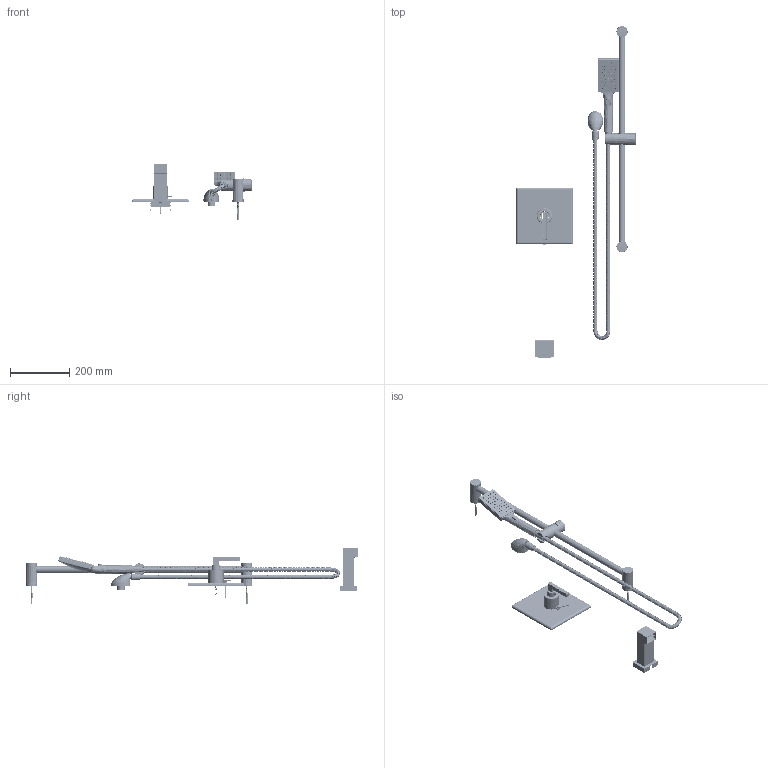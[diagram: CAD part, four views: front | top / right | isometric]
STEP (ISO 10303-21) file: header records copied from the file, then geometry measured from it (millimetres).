
FILE_DESCRIPTION (( 'STEP AP214' ), '1' );
FILE_NAME ('S3694TRM.STEP', '2025-01-15T11:18:58', ( '' ), ( '' ), 'SwSTEP 2.0', 'SolidWorks 2023', '' );
FILE_SCHEMA (( 'AUTOMOTIVE_DESIGN' ));
Length unit declared in the file: inch
Products named in the file (1): S3694TRM
Bounding box: 402.68 x 1117.86 x 187.8 mm (x, y, z)
Surface area: 473746.3 mm2 (no closed solid volume)
Topology: 0 solids, 197 shells, 1640 faces, 5709 edges, 4170 vertices
Faces by surface type: cylinder 626, plane 442, bspline 270, cone 211, torus 79, sphere 12
Entity records: 247786 total; most frequent: CARTESIAN_POINT 204144, ORIENTED_EDGE 8820, DIRECTION 7519, EDGE_CURVE 5690, VERTEX_POINT 4170, AXIS2_PLACEMENT_3D 2665, LINE 2189, VECTOR 2189
